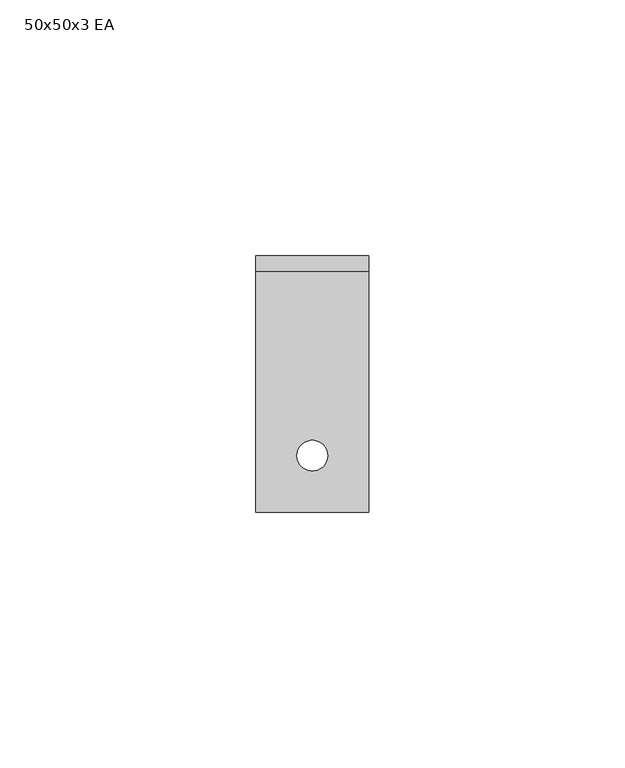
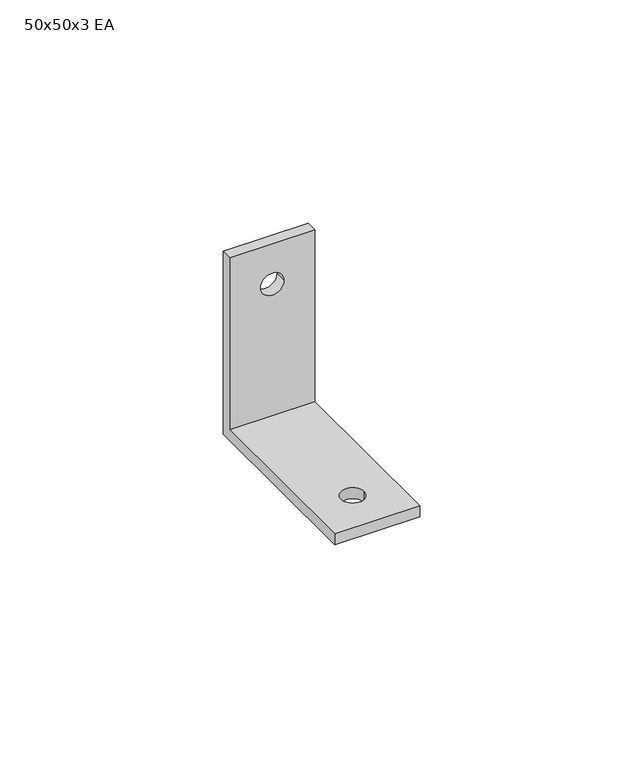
"""IFC4 building model written with IfcOpenShell, lengths in millimetres: furniture geometry, X_Partition-Angle-Duracube-Shower Seat : 50x50x3 EA."""

from ifc_helpers import new_model, si_unit, frame, origin, place, context, project, spatial, polyline, circle_curve, source, transform, mapped, element, save
from ifc_brep_helpers import plane_surface, revolved_surface, advanced_brep


def furniture_50x50x3_ea_30474b0d(model_context):
    return source(origin(), model_context, "Body", "AdvancedBrep", [
        advanced_brep(
        [(11.0, 22.0, 3.0), (11.0, -25.0, 3.0), (11.0, -25.0, 0.0), (11.0, 25.0, 0.0), (11.0, 25.0, 50.0), (11.0, 22.0, 50.0), (-11.0, 22.0, 3.0), (-11.0, 22.0, 50.0), (-11.0, 25.0, 50.0), (-11.0, 25.0, 0.0), (-11.0, -25.0, 0.0), (-11.0, -25.0, 3.0), (3.0, -14.0, 3.0), (-3.0, -14.0, 3.0), (-3.0, -14.0, 0.0), (3.0, -14.0, 0.0), (-3.0, 25.0, 39.0), (3.0, 25.0, 39.0), (3.0, 22.0, 39.0), (-3.0, 22.0, 39.0)],
        [
            (0, 1),
            (1, 2),
            (2, 3),
            (3, 4),
            (4, 5),
            (5, 0),
            (6, 7),
            (7, 8),
            (8, 9),
            (9, 10),
            (10, 11),
            (11, 6),
            (0, 6),
            (11, 1),
            (12, 13, circle_curve(frame((0.0, -14.0, 3.0), z_axis=(0.0, 0.0, -1.0), x_axis=(1.0, 0.0, 0.0)), 3.0)),
            (13, 12, circle_curve(frame((0.0, -14.0, 3.0), z_axis=(0.0, 0.0, -1.0), x_axis=(1.0, 0.0, 0.0)), 3.0)),
            (10, 2),
            (9, 3),
            (14, 15, circle_curve(frame((0.0, -14.0, 0.0), z_axis=(0.0, 0.0, 1.0), x_axis=(1.0, 0.0, 0.0)), 3.0)),
            (15, 14, circle_curve(frame((0.0, -14.0, 0.0), z_axis=(0.0, 0.0, 1.0), x_axis=(1.0, 0.0, 0.0)), 3.0)),
            (8, 4),
            (16, 17, circle_curve(frame((0.0, 25.0, 39.0), z_axis=(0.0, -1.0, 0.0), x_axis=(1.0, 0.0, 0.0)), 3.0)),
            (17, 16, circle_curve(frame((0.0, 25.0, 39.0), z_axis=(0.0, -1.0, 0.0), x_axis=(1.0, 0.0, 0.0)), 3.0)),
            (7, 5),
            (18, 19, circle_curve(frame((0.0, 22.0, 39.0), z_axis=(0.0, 1.0, 0.0), x_axis=(1.0, 0.0, 0.0)), 3.0)),
            (19, 18, circle_curve(frame((0.0, 22.0, 39.0), z_axis=(0.0, 1.0, 0.0), x_axis=(1.0, 0.0, 0.0)), 3.0)),
            (12, 15),
            (14, 13),
            (18, 17),
            (16, 19),
        ],
        [
            plane_surface(frame((11.0, -25.0, 3.0), z_axis=(1.0, 0.0, 0.0), x_axis=(0.0, -1.0, 0.0))),
            plane_surface(frame((-11.0, -25.0, 3.0), z_axis=(-1.0, 0.0, 0.0), x_axis=(0.0, 1.0, 0.0))),
            plane_surface(frame((11.0, 22.0, 3.0), z_axis=(0.0, 0.0, 1.0), x_axis=(-1.0, 0.0, 0.0))),
            plane_surface(frame((11.0, -25.0, 3.0), z_axis=(0.0, -1.0, 0.0), x_axis=(-1.0, 0.0, 0.0))),
            plane_surface(frame((11.0, -25.0, 0.0), z_axis=(0.0, 0.0, -1.0), x_axis=(-1.0, 0.0, 0.0))),
            plane_surface(frame((11.0, 25.0, 0.0), z_axis=(0.0, 1.0, 0.0), x_axis=(-1.0, 0.0, 0.0))),
            plane_surface(frame((11.0, 25.0, 50.0), z_axis=(0.0, 0.0, 1.0), x_axis=(-1.0, 0.0, 0.0))),
            plane_surface(frame((11.0, 22.0, 50.0), z_axis=(0.0, -1.0, 0.0), x_axis=(-1.0, 0.0, 0.0))),
            revolved_surface(polyline([(3.0, -14.0, 3.0), (3.0, -14.0, 0.0)]), (0.0, -14.0, 0.0), (0.0, 0.0, 1.0)),
            revolved_surface(polyline([(3.0, 22.0, 39.0), (3.0, 25.0, 39.0)]), (0.0, 25.0, 39.0), (0.0, -1.0, 0.0)),
        ],
        [
            (0, [[1, 2, 3, 4, 5, 6]]),
            (1, [[7, 8, 9, 10, 11, 12]]),
            (2, [[-1, 13, -12, 14], [15, 16]]),
            (3, [[-2, -14, -11, 17]]),
            (4, [[-3, -17, -10, 18], [19, 20]]),
            (5, [[-4, -18, -9, 21], [22, 23]]),
            (6, [[-5, -21, -8, 24]]),
            (7, [[-6, -24, -7, -13], [25, 26]]),
            (8, [[27, -19, 28, -15]]),
            (8, [[-27, -16, -28, -20]]),
            (9, [[29, -22, 30, -25]]),
            (9, [[-29, -26, -30, -23]]),
        ],
    ),
    ])


if __name__ == "__main__":
    model = new_model("IFC4")
    model_context = context("Model", 3, world=origin())
    ifc_project = project(units=[si_unit("LENGTHUNIT", "METRE", prefix="MILLI")], contexts=[model_context])
    site = spatial("IfcSite", under=ifc_project)
    building = spatial("IfcBuilding", under=site)
    placement = place(None, origin())
    furniture_50x50x3_ea_shape = furniture_50x50x3_ea_30474b0d(model_context)
    element("IfcFurniture", 1, ObjectType="X_Partition-Angle-Duracube-Shower Seat : 50x50x3 EA", at=placement, inside=building, context=model_context, shape_type="MappedRepresentation", body=[
        mapped(furniture_50x50x3_ea_shape, transform((0.0, 0.0, 0.0), x_axis=(1.0, 0.0, 0.0), y_axis=(0.0, 1.0, 0.0), z_axis=(0.0, 0.0, 1.0))),
    ])
    save(model, "model.ifc")
